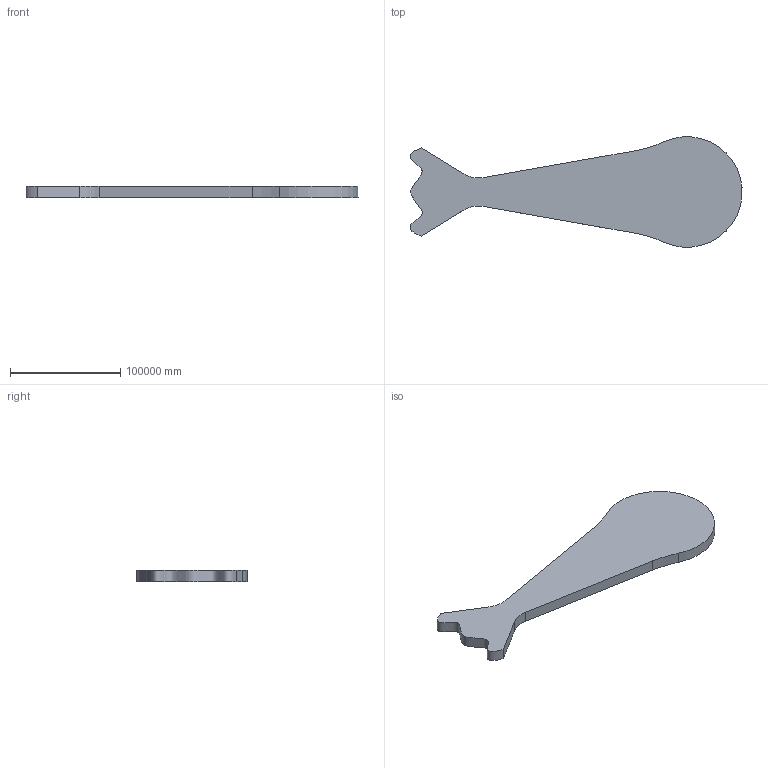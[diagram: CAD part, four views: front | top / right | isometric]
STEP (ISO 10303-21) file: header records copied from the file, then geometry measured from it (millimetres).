
FILE_DESCRIPTION(('Open CASCADE Model'),'2;1');
FILE_NAME('Open CASCADE Shape Model','2017-12-08T00:26:56',('Author'),( 'Open CASCADE'),'Open CASCADE STEP processor 7.1','Open CASCADE 7.1' ,'Unknown');
FILE_SCHEMA(('AUTOMOTIVE_DESIGN { 1 0 10303 214 1 1 1 1 }'));
Length unit declared in the file: metre
Products named in the file (1): Open CASCADE STEP translator 7.1 1
Bounding box: 300524.38 x 99619.47 x 10000 mm (x, y, z)
Volume: 180684798730439.2 mm3; surface area: 43803387361 mm2
Topology: 1 solids, 1 shells, 12 faces, 30 edges, 20 vertices
Faces by surface type: plane 6, cylinder 5, extrusion 1
Entity records: 811 total; most frequent: CARTESIAN_POINT 193, DIRECTION 116, VECTOR 67, LINE 66, ORIENTED_EDGE 60, PCURVE 60, DEFINITIONAL_REPRESENTATION 60, EDGE_CURVE 30
